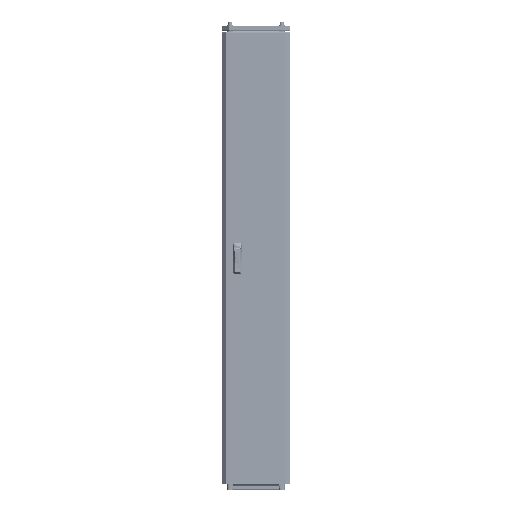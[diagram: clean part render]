
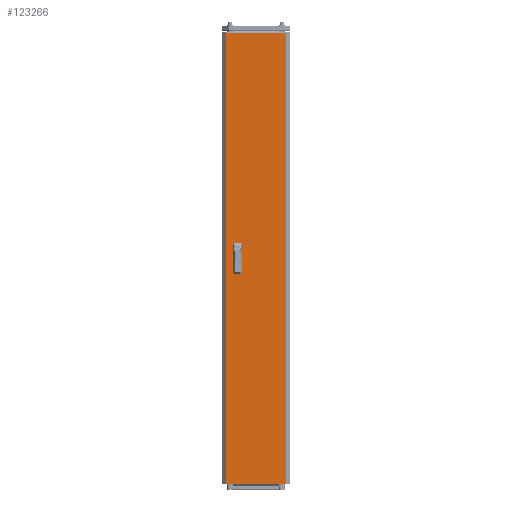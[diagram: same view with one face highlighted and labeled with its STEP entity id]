
A CAD part, top view. The second image highlights one B-rep face of the part: STEP entity #123266.
In plain terms, the highlighted planar face has unit normal (0, 0, 1).
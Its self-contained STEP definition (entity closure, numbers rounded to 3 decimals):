
#3063 = LINE ( 'NONE', #40830, #209550 ) ;
#6005 = DIRECTION ( 'NONE',  ( 0., 0., -1. ) ) ;
#6834 = VERTEX_POINT ( 'NONE', #106619 ) ;
#7203 = FACE_BOUND ( 'NONE', #32668, .T. ) ;
#9057 = VERTEX_POINT ( 'NONE', #219773 ) ;
#12772 = ORIENTED_EDGE ( 'NONE', *, *, #61572, .T. ) ;
#12897 = VECTOR ( 'NONE', #186501, 1000. ) ;
#15075 = VERTEX_POINT ( 'NONE', #150008 ) ;
#16127 = LINE ( 'NONE', #238929, #156055 ) ;
#19225 = VERTEX_POINT ( 'NONE', #28588 ) ;
#20544 = EDGE_CURVE ( 'NONE', #236001, #29962, #209172, .T. ) ;
#20577 = VERTEX_POINT ( 'NONE', #161528 ) ;
#26669 = FACE_BOUND ( 'NONE', #227600, .T. ) ;
#27231 = ORIENTED_EDGE ( 'NONE', *, *, #205318, .T. ) ;
#28588 = CARTESIAN_POINT ( 'NONE',  ( -92.5, 12.5, 0. ) ) ;
#28597 = VERTEX_POINT ( 'NONE', #106982 ) ;
#29642 = DIRECTION ( 'NONE',  ( 0., -1., 0. ) ) ;
#29962 = VERTEX_POINT ( 'NONE', #113356 ) ;
#31450 = EDGE_CURVE ( 'NONE', #20577, #51068, #128220, .T. ) ;
#32668 = EDGE_LOOP ( 'NONE', ( #140103, #100228, #191188, #99938 ) ) ;
#37143 = LINE ( 'NONE', #87046, #230493 ) ;
#37214 = DIRECTION ( 'NONE',  ( -1., 0., 0. ) ) ;
#40830 = CARTESIAN_POINT ( 'NONE',  ( -92.5, -12.5, 0. ) ) ;
#42404 = CARTESIAN_POINT ( 'NONE',  ( -92.5, -62.5, 0. ) ) ;
#44241 = LINE ( 'NONE', #134348, #211683 ) ;
#44982 = DIRECTION ( 'NONE',  ( 0., 1., 0. ) ) ;
#49077 = LINE ( 'NONE', #142785, #134700 ) ;
#51068 = VERTEX_POINT ( 'NONE', #192944 ) ;
#52250 = EDGE_CURVE ( 'NONE', #9057, #218063, #64425, .T. ) ;
#52545 = LINE ( 'NONE', #125540, #211182 ) ;
#55805 = DIRECTION ( 'NONE',  ( 1., 0., 0. ) ) ;
#59973 = CARTESIAN_POINT ( 'NONE',  ( -67.5, -62.5, 0. ) ) ;
#61572 = EDGE_CURVE ( 'NONE', #222097, #134973, #52545, .T. ) ;
#61984 = CARTESIAN_POINT ( 'NONE',  ( 0., 0., 0. ) ) ;
#63972 = CARTESIAN_POINT ( 'NONE',  ( -67.5, -12.5, 0. ) ) ;
#64425 = LINE ( 'NONE', #59973, #111846 ) ;
#66991 = CARTESIAN_POINT ( 'NONE',  ( 127.875, 969.5, 0. ) ) ;
#81460 = EDGE_CURVE ( 'NONE', #29962, #9057, #176916, .T. ) ;
#81628 = CARTESIAN_POINT ( 'NONE',  ( -92.5, -12.5, 0. ) ) ;
#83541 = EDGE_CURVE ( 'NONE', #218063, #236001, #3063, .T. ) ;
#83704 = AXIS2_PLACEMENT_3D ( 'NONE', #61984, #6005, #156896 ) ;
#87046 = CARTESIAN_POINT ( 'NONE',  ( -67.5, 12.5, 0. ) ) ;
#95304 = CARTESIAN_POINT ( 'NONE',  ( -127.875, -969.5, 0. ) ) ;
#97543 = DIRECTION ( 'NONE',  ( 0., -1., 0. ) ) ;
#99938 = ORIENTED_EDGE ( 'NONE', *, *, #161696, .F. ) ;
#100228 = ORIENTED_EDGE ( 'NONE', *, *, #210777, .F. ) ;
#103847 = ORIENTED_EDGE ( 'NONE', *, *, #203654, .T. ) ;
#106619 = CARTESIAN_POINT ( 'NONE',  ( -92.5, 62.5, 0. ) ) ;
#106982 = CARTESIAN_POINT ( 'NONE',  ( -67.5, 62.5, 0. ) ) ;
#109915 = DIRECTION ( 'NONE',  ( 1., 0., 0. ) ) ;
#111846 = VECTOR ( 'NONE', #44982, 1000. ) ;
#112969 = VECTOR ( 'NONE', #116581, 1000. ) ;
#113356 = CARTESIAN_POINT ( 'NONE',  ( -92.5, -62.5, 0. ) ) ;
#116581 = DIRECTION ( 'NONE',  ( 0., -1., 0. ) ) ;
#118787 = ORIENTED_EDGE ( 'NONE', *, *, #52250, .F. ) ;
#123266 = ADVANCED_FACE ( 'NONE', ( #7203, #26669, #228767 ), #155705, .F. ) ;
#125540 = CARTESIAN_POINT ( 'NONE',  ( -127.875, 969.5, 0. ) ) ;
#128220 = LINE ( 'NONE', #95304, #180663 ) ;
#129247 = VECTOR ( 'NONE', #55805, 1000. ) ;
#134348 = CARTESIAN_POINT ( 'NONE',  ( 127.875, -969.5, 0. ) ) ;
#134700 = VECTOR ( 'NONE', #29642, 1000. ) ;
#134973 = VERTEX_POINT ( 'NONE', #143612 ) ;
#135320 = ORIENTED_EDGE ( 'NONE', *, *, #81460, .F. ) ;
#137923 = DIRECTION ( 'NONE',  ( 0., 1., 0. ) ) ;
#140103 = ORIENTED_EDGE ( 'NONE', *, *, #238233, .F. ) ;
#142785 = CARTESIAN_POINT ( 'NONE',  ( -92.5, 12.5, 0. ) ) ;
#143612 = CARTESIAN_POINT ( 'NONE',  ( -127.875, 969.5, 0. ) ) ;
#148742 = EDGE_CURVE ( 'NONE', #19225, #15075, #222565, .T. ) ;
#149968 = LINE ( 'NONE', #202317, #12897 ) ;
#150008 = CARTESIAN_POINT ( 'NONE',  ( -67.5, 12.5, 0. ) ) ;
#155705 = PLANE ( 'NONE',  #83704 ) ;
#156055 = VECTOR ( 'NONE', #97543, 1000. ) ;
#156896 = DIRECTION ( 'NONE',  ( -1., 0., 0. ) ) ;
#161355 = DIRECTION ( 'NONE',  ( 0., 1., 0. ) ) ;
#161528 = CARTESIAN_POINT ( 'NONE',  ( -127.875, -969.5, 0. ) ) ;
#161696 = EDGE_CURVE ( 'NONE', #6834, #19225, #49077, .T. ) ;
#167788 = CARTESIAN_POINT ( 'NONE',  ( -92.5, 12.5, 0. ) ) ;
#176916 = LINE ( 'NONE', #231713, #216845 ) ;
#178104 = DIRECTION ( 'NONE',  ( 1., 0., 0. ) ) ;
#180663 = VECTOR ( 'NONE', #109915, 1000. ) ;
#181403 = ORIENTED_EDGE ( 'NONE', *, *, #83541, .F. ) ;
#186501 = DIRECTION ( 'NONE',  ( -1., 0., 0. ) ) ;
#191188 = ORIENTED_EDGE ( 'NONE', *, *, #148742, .F. ) ;
#192944 = CARTESIAN_POINT ( 'NONE',  ( 127.875, -969.5, 0. ) ) ;
#199834 = DIRECTION ( 'NONE',  ( -1., 0., 0. ) ) ;
#202317 = CARTESIAN_POINT ( 'NONE',  ( -92.5, 62.5, 0. ) ) ;
#203654 = EDGE_CURVE ( 'NONE', #51068, #222097, #44241, .T. ) ;
#205318 = EDGE_CURVE ( 'NONE', #134973, #20577, #16127, .T. ) ;
#209172 = LINE ( 'NONE', #42404, #112969 ) ;
#209550 = VECTOR ( 'NONE', #37214, 1000. ) ;
#210516 = ORIENTED_EDGE ( 'NONE', *, *, #20544, .F. ) ;
#210777 = EDGE_CURVE ( 'NONE', #15075, #28597, #37143, .T. ) ;
#211182 = VECTOR ( 'NONE', #199834, 1000. ) ;
#211683 = VECTOR ( 'NONE', #137923, 1000. ) ;
#216845 = VECTOR ( 'NONE', #178104, 1000. ) ;
#218063 = VERTEX_POINT ( 'NONE', #63972 ) ;
#219773 = CARTESIAN_POINT ( 'NONE',  ( -67.5, -62.5, 0. ) ) ;
#222097 = VERTEX_POINT ( 'NONE', #66991 ) ;
#222565 = LINE ( 'NONE', #167788, #129247 ) ;
#225488 = EDGE_LOOP ( 'NONE', ( #103847, #12772, #27231, #233081 ) ) ;
#227600 = EDGE_LOOP ( 'NONE', ( #181403, #118787, #135320, #210516 ) ) ;
#228767 = FACE_OUTER_BOUND ( 'NONE', #225488, .T. ) ;
#230493 = VECTOR ( 'NONE', #161355, 1000. ) ;
#231713 = CARTESIAN_POINT ( 'NONE',  ( -92.5, -62.5, 0. ) ) ;
#233081 = ORIENTED_EDGE ( 'NONE', *, *, #31450, .T. ) ;
#236001 = VERTEX_POINT ( 'NONE', #81628 ) ;
#238233 = EDGE_CURVE ( 'NONE', #28597, #6834, #149968, .T. ) ;
#238929 = CARTESIAN_POINT ( 'NONE',  ( -127.875, -969.5, 0. ) ) ;
